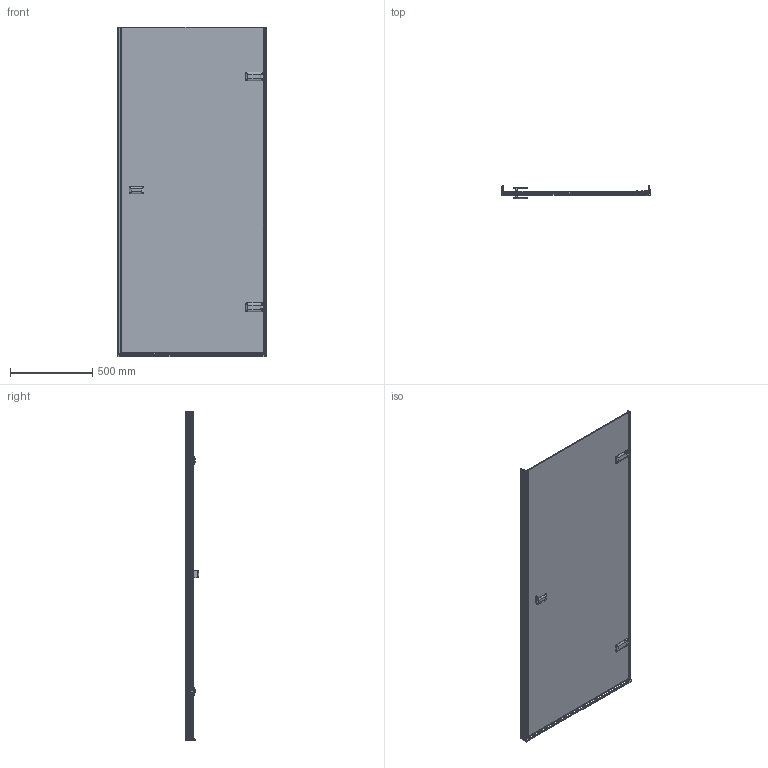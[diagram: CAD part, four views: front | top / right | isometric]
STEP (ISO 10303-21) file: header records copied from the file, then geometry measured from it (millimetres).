
FILE_DESCRIPTION(/* description */ (''),/* implementation_level */ '2;1');
FILE_NAME(/* name */ 'D:\!\_1\TREND DOOR GK-861ONE\TREND DOOR GK-861ONE правая модель\TREND DOOR GK-861ONE ПРАВАЯ-3D.stp',/* time_stamp */ '2017-08-24T12:36:26+03:00',/* author */ ('ChechurovS'),/* organization */ (''),/* preprocessor_version */ 'ST-DEVELOPER v15.2',/* originating_system */ 'Autodesk Inventor 2014',/* authorisation */ '');
FILE_SCHEMA (('CONFIG_CONTROL_DESIGN'));
Length unit declared in the file: millimetre
Products named in the file (1): TREND DOOR GK-861ONE ПРАВАЯ-
3D
Bounding box: 899 x 81.5 x 2001 mm (x, y, z)
Volume: 11306992 mm3; surface area: 4490089.6 mm2
Topology: 4 solids, 4 shells, 999 faces, 2784 edges, 1852 vertices
Faces by surface type: plane 608, cylinder 311, bspline 52, torus 24, sphere 4
Full cylindrical faces by diameter (mm): 5 x3, 12 x2
Entity records: 35811 total; most frequent: CARTESIAN_POINT 9350, ORIENTED_EDGE 5310, DIRECTION 5230, EDGE_CURVE 2652, LINE 1898, VECTOR 1898, AXIS2_PLACEMENT_3D 1666, VERTEX_POINT 1661
